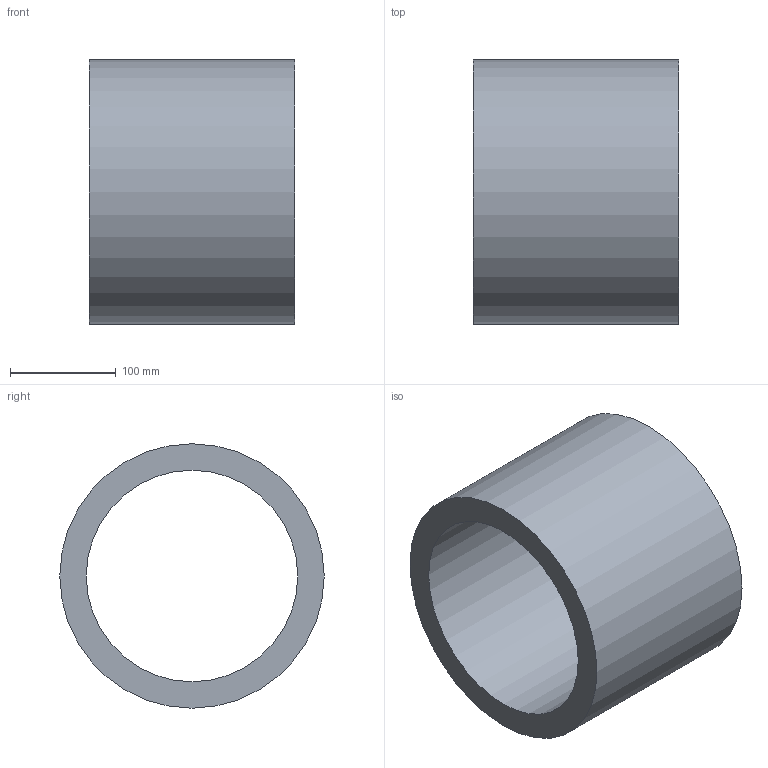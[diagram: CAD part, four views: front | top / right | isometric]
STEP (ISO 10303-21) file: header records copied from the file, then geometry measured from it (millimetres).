
FILE_DESCRIPTION(('Open CASCADE Model'),'2;1');
FILE_NAME('Open CASCADE Shape Model','2026-10-16T18:03:45',('Author'),( 'Open CASCADE'),'Open CASCADE STEP processor 7.8','Open CASCADE 7.8' ,'Unknown');
FILE_SCHEMA(('AUTOMOTIVE_DESIGN { 1 0 10303 214 1 1 1 1 }'));
Length unit declared in the file: millimetre
Products named in the file (1): Open CASCADE STEP translator 7.8 34
Bounding box: 194 x 250 x 250 mm (x, y, z)
Volume: 3428263 mm3; surface area: 309604 mm2
Topology: 1 solids, 1 shells, 4 faces, 6 edges, 4 vertices
Faces by surface type: cylinder 2, plane 2
Full cylindrical faces by diameter (mm): 200 x1, 250 x1
Entity records: 186 total; most frequent: DIRECTION 32, CARTESIAN_POINT 27, ORIENTED_EDGE 12, PCURVE 12, DEFINITIONAL_REPRESENTATION 12, LINE 10, VECTOR 10, AXIS2_PLACEMENT_3D 9
